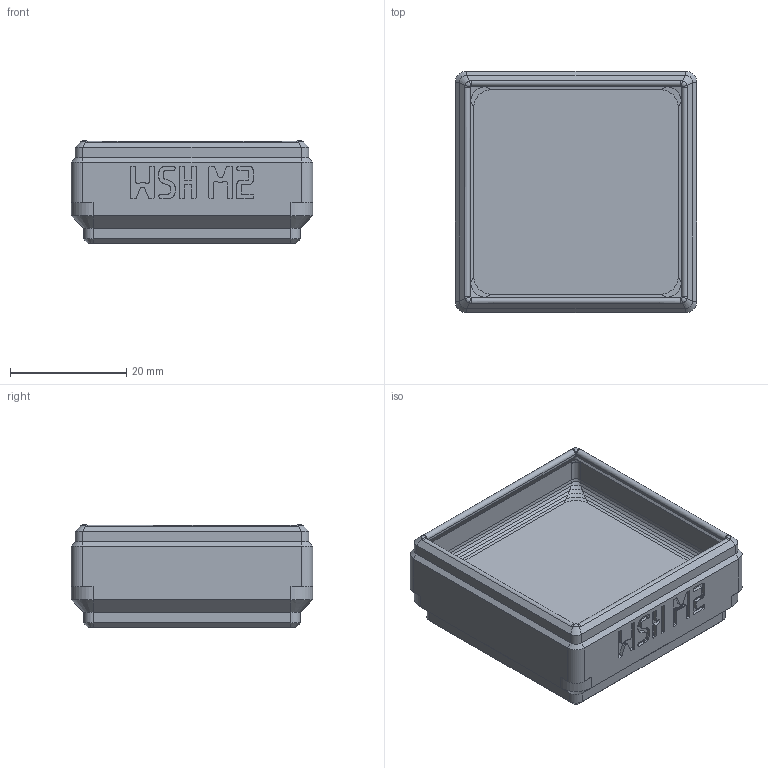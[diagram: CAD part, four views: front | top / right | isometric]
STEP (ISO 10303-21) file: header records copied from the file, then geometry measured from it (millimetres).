
FILE_DESCRIPTION(('Open CASCADE Model'),'2;1');
FILE_NAME('Open CASCADE Shape Model','2026-11-03T14:04:38',('Author'),( 'Open CASCADE'),'Open CASCADE STEP processor 8.0','build123d', 'Unknown');
FILE_SCHEMA(('AUTOMOTIVE_DESIGN { 1 0 10303 214 1 1 1 1 }'));
Products named in the file (1): SOLID
Bounding box: 41.5 x 41.5 x 17.7 mm (x, y, z)
Volume: 11837.2 mm3; surface area: 10756.1 mm2
Topology: 1 solids, 2 shells, 784 faces, 2186 edges, 1412 vertices
Faces by surface type: plane 648, bspline 92, cylinder 32, cone 12
Entity records: 56692 total; most frequent: CARTESIAN_POINT 13827, DIRECTION 7548, LINE 5962, VECTOR 5962, ORIENTED_EDGE 4372, PCURVE 4372, DEFINITIONAL_REPRESENTATION 4372, EDGE_CURVE 2186
